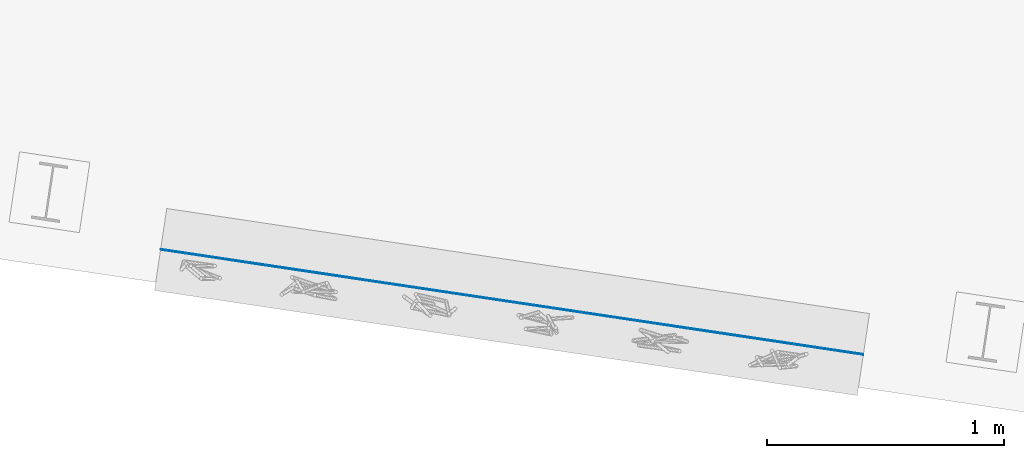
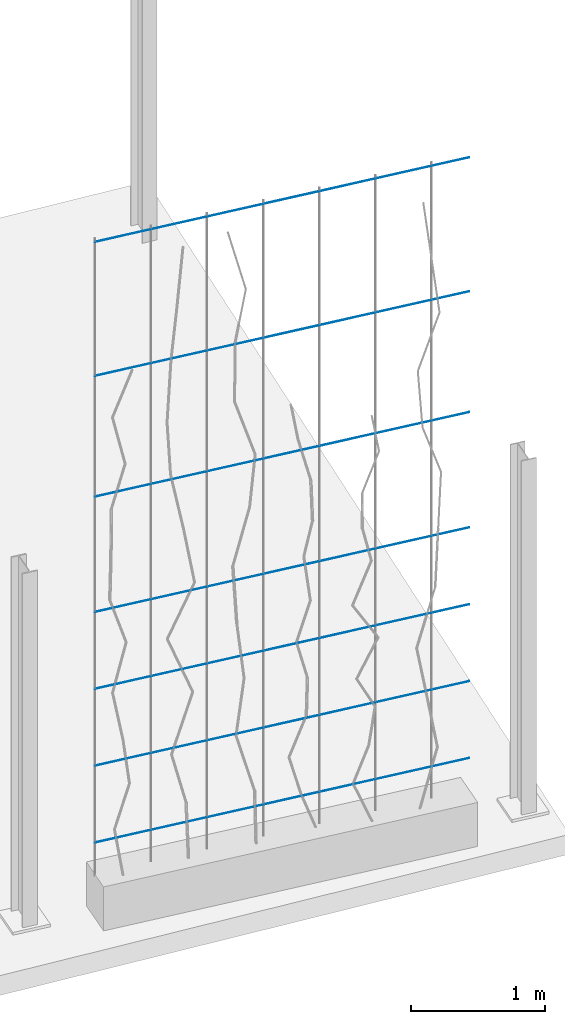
# One storey, part 98 of 142: 7 members, 1 element without a shape of its own.
"""IFC4 building model written with IfcOpenShell, lengths in metres."""

from ifc_helpers import new_model, si_unit, direction, frame, origin_with_axes, place, context, subcontext, project, spatial, circle, extrude, material, material_profile, profile_set, profile_usage, type_object, element, aggregate, save


model = new_model("IFC4")

# Units and contexts
model_context = context("Model", 3, precision=1e-05, world=origin_with_axes(), true_north=direction((0.0, 1.0)))
body_context = subcontext(model_context, "Body", "Model", "MODEL_VIEW")
ifc_project = project(units=[si_unit("LENGTHUNIT", "METRE"), si_unit("AREAUNIT", "SQUARE_METRE"), si_unit("VOLUMEUNIT", "CUBIC_METRE")], contexts=[model_context])

# Site, building, storey
site_placement = place(None, origin_with_axes())
site = spatial("IfcSite", under=ifc_project, at=site_placement, Name="Lares · Rua das Mercês · artigo 4771")
building_placement = place(site_placement, frame((15.0, 9.7, 14.65), z_axis=(0.0, 0.0, 1.0), x_axis=(0.989015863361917, -0.147809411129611, 0.0)))
building = spatial("IfcBuilding", under=site, at=building_placement, Name="Casa Sobreposta")
storey_placement = place(building_placement, origin_with_axes())
storey = spatial("IfcBuildingStorey", under=building, at=storey_placement, Name="00 · Habitação e estacionamento", Elevation=14.65)

# Assembly, members
assembly_placement = place(storey_placement, origin_with_axes())
assembly = element("IfcElementAssembly", 1, at=assembly_placement, inside=storey, Name="Fachada sul e pátio · estrutura e trepadeiras", ObjectType="LIVING_SHADE_TRELLIS", PredefinedType="USERDEFINED")
ifc_material = material(Name="Aço galvanizado / Stahl verzinkt", Category="steel")
ifc_material_profile = material_profile(ifc_material, circle(Radius=0.002))
ifc_profile_set = profile_set([ifc_material_profile], Name="D0.004")
ifc_profile_usage_1 = profile_usage(ifc_profile_set)
member_type = type_object("IfcMemberType", Name="D0.004 / galvanized", PredefinedType="NOTDEFINED", material=ifc_profile_set)
member_1_placement = place(assembly_placement, frame((28.5, -1.61, 0.65), z_axis=(1.0, 0.0, 0.0), x_axis=(0.0, -1.0, 0.0)))
member_1 = element("IfcMember", 2, at=member_1_placement, type_object=member_type, material=ifc_profile_usage_1, Name="Trepadeiras · fio horizontal", context=body_context, shape_type="SweptSolid", body=[
    extrude(circle(Radius=0.002), origin_with_axes(), (0.0, 0.0, 1.0), 3.0),
])
ifc_profile_usage_2 = profile_usage(ifc_profile_set)
member_2_placement = place(assembly_placement, frame((28.5, -1.61, 1.35), z_axis=(1.0, 0.0, 0.0), x_axis=(0.0, -1.0, 0.0)))
member_2 = element("IfcMember", 3, at=member_2_placement, type_object=member_type, material=ifc_profile_usage_2, Name="Trepadeiras · fio horizontal", context=body_context, shape_type="SweptSolid", body=[
    extrude(circle(Radius=0.002), origin_with_axes(), (0.0, 0.0, 1.0), 3.0),
])
ifc_profile_usage_3 = profile_usage(ifc_profile_set)
member_3_placement = place(assembly_placement, frame((28.5, -1.61, 2.05), z_axis=(1.0, 0.0, 0.0), x_axis=(0.0, -1.0, 0.0)))
member_3 = element("IfcMember", 4, at=member_3_placement, type_object=member_type, material=ifc_profile_usage_3, Name="Trepadeiras · fio horizontal", context=body_context, shape_type="SweptSolid", body=[
    extrude(circle(Radius=0.002), origin_with_axes(), (0.0, 0.0, 1.0), 3.0),
])
ifc_profile_usage_4 = profile_usage(ifc_profile_set)
member_4_placement = place(assembly_placement, frame((28.5, -1.61, 2.75), z_axis=(1.0, 0.0, 0.0), x_axis=(0.0, -1.0, 0.0)))
member_4 = element("IfcMember", 5, at=member_4_placement, type_object=member_type, material=ifc_profile_usage_4, Name="Trepadeiras · fio horizontal", context=body_context, shape_type="SweptSolid", body=[
    extrude(circle(Radius=0.002), origin_with_axes(), (0.0, 0.0, 1.0), 3.0),
])
ifc_profile_usage_5 = profile_usage(ifc_profile_set)
member_5_placement = place(assembly_placement, frame((28.5, -1.61, 3.8), z_axis=(1.0, 0.0, 0.0), x_axis=(0.0, -1.0, 0.0)))
member_5 = element("IfcMember", 6, at=member_5_placement, type_object=member_type, material=ifc_profile_usage_5, Name="Trepadeiras · fio horizontal", context=body_context, shape_type="SweptSolid", body=[
    extrude(circle(Radius=0.002), origin_with_axes(), (0.0, 0.0, 1.0), 3.0),
])
ifc_profile_usage_6 = profile_usage(ifc_profile_set)
member_6_placement = place(assembly_placement, frame((28.5, -1.61, 4.9), z_axis=(1.0, 0.0, 0.0), x_axis=(0.0, -1.0, 0.0)))
member_6 = element("IfcMember", 7, at=member_6_placement, type_object=member_type, material=ifc_profile_usage_6, Name="Trepadeiras · fio horizontal", context=body_context, shape_type="SweptSolid", body=[
    extrude(circle(Radius=0.002), origin_with_axes(), (0.0, 0.0, 1.0), 3.0),
])
ifc_profile_usage_7 = profile_usage(ifc_profile_set)
member_7_placement = place(assembly_placement, frame((28.5, -1.61, 6.12), z_axis=(1.0, 0.0, 0.0), x_axis=(0.0, -1.0, 0.0)))
member_7 = element("IfcMember", 8, at=member_7_placement, type_object=member_type, material=ifc_profile_usage_7, Name="Trepadeiras · fio horizontal", context=body_context, shape_type="SweptSolid", body=[
    extrude(circle(Radius=0.002), origin_with_axes(), (0.0, 0.0, 1.0), 3.0),
])
aggregate(assembly, [member_1, member_2, member_3, member_4, member_5, member_6, member_7])

save(model, "model.ifc")
